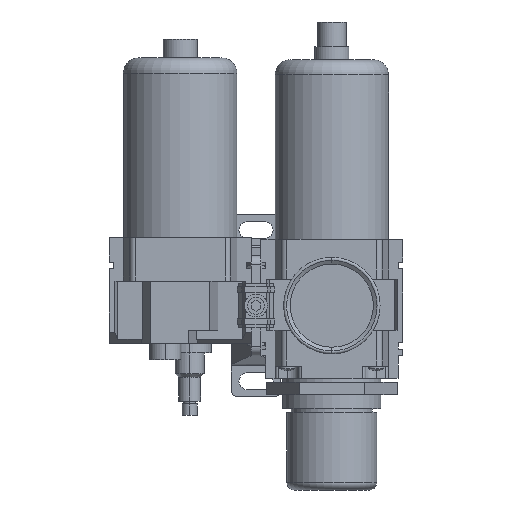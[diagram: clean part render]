
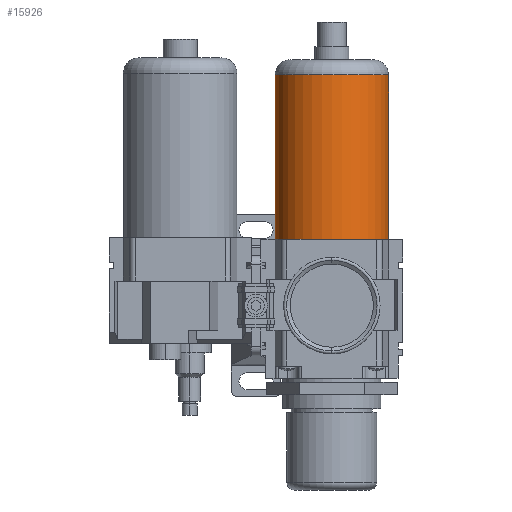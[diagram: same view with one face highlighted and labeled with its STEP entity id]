
A CAD part, front view. The second image highlights one B-rep face of the part: STEP entity #15926.
In plain terms, the highlighted cylindrical face has radius 30 mm (diameter 60 mm), a partial arc.
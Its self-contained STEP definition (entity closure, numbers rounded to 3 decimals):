
#230 = DIRECTION ( 'NONE',  ( 0., 0., -1. ) ) ;
#312 = CARTESIAN_POINT ( 'NONE',  ( 0., 0., 0. ) ) ;
#902 = CARTESIAN_POINT ( 'NONE',  ( 0., 0., -500. ) ) ;
#1020 = AXIS2_PLACEMENT_3D ( 'NONE', #5134, #17355, #10008 ) ;
#1252 = VERTEX_POINT ( 'NONE', #5122 ) ;
#1769 = CARTESIAN_POINT ( 'NONE',  ( -30., 0., 0. ) ) ;
#2596 = CARTESIAN_POINT ( 'NONE',  ( 30., 0., -500. ) ) ;
#2693 = EDGE_CURVE ( 'NONE', #12367, #1252, #5145, .T. ) ;
#2944 = CIRCLE ( 'NONE', #10545, 30. ) ;
#3144 = VECTOR ( 'NONE', #5241, 1000. ) ;
#3648 = CARTESIAN_POINT ( 'NONE',  ( -30., 0., -500. ) ) ;
#4597 = VERTEX_POINT ( 'NONE', #1769 ) ;
#4846 = FACE_OUTER_BOUND ( 'NONE', #12977, .T. ) ;
#4934 = DIRECTION ( 'NONE',  ( 1., 0., 0. ) ) ;
#5122 = CARTESIAN_POINT ( 'NONE',  ( 30., 0., 87. ) ) ;
#5134 = CARTESIAN_POINT ( 'NONE',  ( 0., 0., 87. ) ) ;
#5145 = LINE ( 'NONE', #2596, #3144 ) ;
#5212 = VERTEX_POINT ( 'NONE', #12975 ) ;
#5241 = DIRECTION ( 'NONE',  ( 0., 0., 1. ) ) ;
#5596 = EDGE_CURVE ( 'NONE', #4597, #5212, #10422, .T. ) ;
#6401 = AXIS2_PLACEMENT_3D ( 'NONE', #902, #16961, #4934 ) ;
#6790 = EDGE_CURVE ( 'NONE', #1252, #5212, #8607, .T. ) ;
#8276 = ORIENTED_EDGE ( 'NONE', *, *, #5596, .F. ) ;
#8479 = ORIENTED_EDGE ( 'NONE', *, *, #2693, .T. ) ;
#8607 = CIRCLE ( 'NONE', #1020, 30. ) ;
#9189 = DIRECTION ( 'NONE',  ( 0., 0., 1. ) ) ;
#10008 = DIRECTION ( 'NONE',  ( 1., 0., 0. ) ) ;
#10218 = CYLINDRICAL_SURFACE ( 'NONE', #6401, 30. ) ;
#10422 = LINE ( 'NONE', #3648, #17026 ) ;
#10545 = AXIS2_PLACEMENT_3D ( 'NONE', #312, #230, #11025 ) ;
#11025 = DIRECTION ( 'NONE',  ( 1., 0., 0. ) ) ;
#12367 = VERTEX_POINT ( 'NONE', #13439 ) ;
#12769 = ORIENTED_EDGE ( 'NONE', *, *, #6790, .T. ) ;
#12975 = CARTESIAN_POINT ( 'NONE',  ( -30., 0., 87. ) ) ;
#12977 = EDGE_LOOP ( 'NONE', ( #8276, #14314, #8479, #12769 ) ) ;
#13007 = EDGE_CURVE ( 'NONE', #12367, #4597, #2944, .T. ) ;
#13439 = CARTESIAN_POINT ( 'NONE',  ( 30., 0., 0. ) ) ;
#14314 = ORIENTED_EDGE ( 'NONE', *, *, #13007, .F. ) ;
#15926 = ADVANCED_FACE ( 'NONE', ( #4846 ), #10218, .T. ) ;
#16961 = DIRECTION ( 'NONE',  ( 0., 0., 1. ) ) ;
#17026 = VECTOR ( 'NONE', #9189, 1000. ) ;
#17355 = DIRECTION ( 'NONE',  ( 0., 0., -1. ) ) ;
